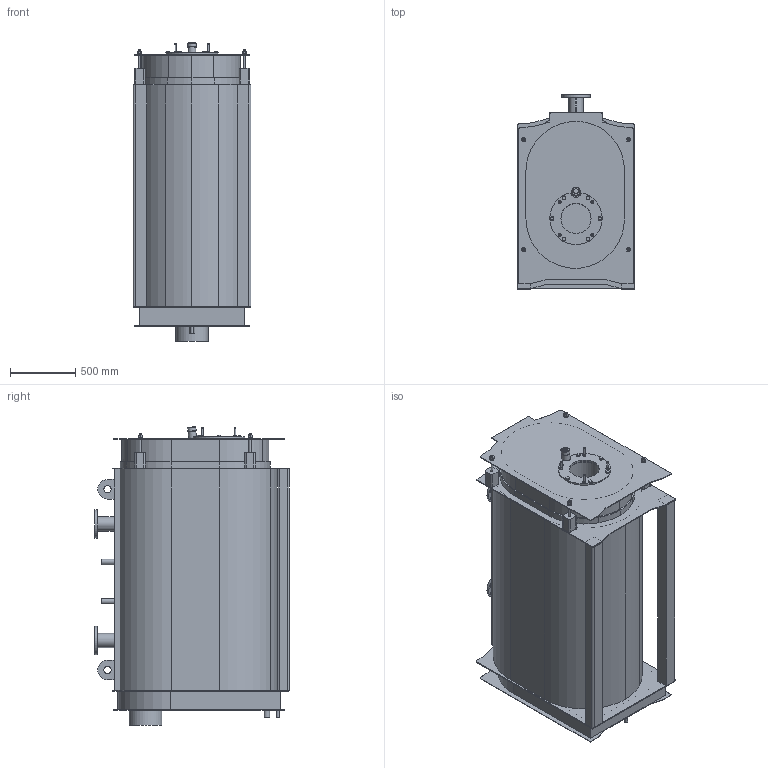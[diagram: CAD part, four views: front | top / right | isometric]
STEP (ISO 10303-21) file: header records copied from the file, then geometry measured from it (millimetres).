
FILE_DESCRIPTION (( 'STEP AP214' ), '1' );
FILE_NAME ('Ultratherm 600.STEP', '2019-08-20T10:49:51', ( '' ), ( '' ), 'SwSTEP 2.0', 'SolidWorks 2016', '' );
FILE_SCHEMA (( 'AUTOMOTIVE_DESIGN' ));
Length unit declared in the file: millimetre
Products named in the file (2): Ultratherm 600
Bounding box: 900 x 1488 x 2279.32 mm (x, y, z)
Volume: 1881432258 mm3; surface area: 25952234 mm2
Topology: 71 solids, 71 shells, 483 faces, 1015 edges, 677 vertices
Faces by surface type: plane 327, cylinder 134, cone 12, bspline 10
Full cylindrical faces by diameter (mm): 12 x4, 14 x4, 16.73 x16, 17.5 x8, 18 x1, 21 x1, 24 x4, 28 x6, 30.6 x4, 34 x2, 39.876 x1, 40 x1, 42 x3, 55 x2, 60 x1, 65 x1, 100 x2, 108 x6, 215 x2, 230 x6, 244 x5, 250 x1
Entity records: 13785 total; most frequent: CARTESIAN_POINT 2739, DIRECTION 2123, ORIENTED_EDGE 1822, EDGE_CURVE 911, AXIS2_PLACEMENT_3D 757, VERTEX_POINT 666, EDGE_LOOP 661, LINE 609
